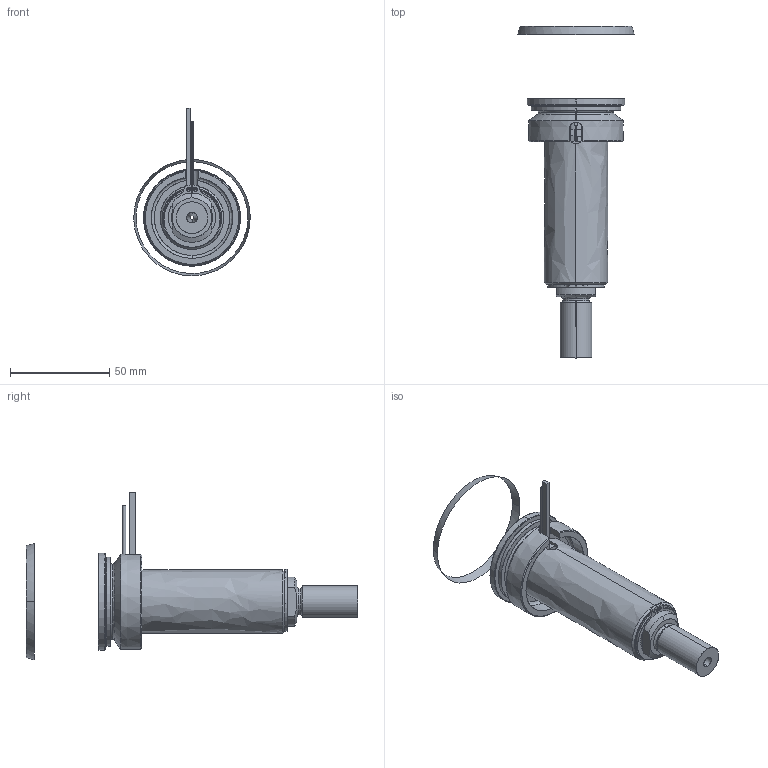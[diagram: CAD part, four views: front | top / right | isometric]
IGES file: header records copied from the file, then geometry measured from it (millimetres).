
Start section: SolidWorks IGES file using analytic representation for surfaces
Global section: file name: C:\Documents and Settings\ws-20\Desktop\TEMPORANEA\UGBE5002-S-A-P-3 [Ød-2.0 P-25 ØC-12].IGS; native system: SolidWorks 2012; preprocessor: SolidWorks 2012; author: ws-20; date: 120306.145254; units: millimetre
Bounding box: 58.79 x 167.44 x 84.69 mm (x, y, z)
Surface area: 42958.7 mm2 (no closed solid volume)
Topology: 0 solids, 0 shells, 112 faces, 2126 edges, 2126 vertices
Faces by surface type: revolution 69, bspline 43
